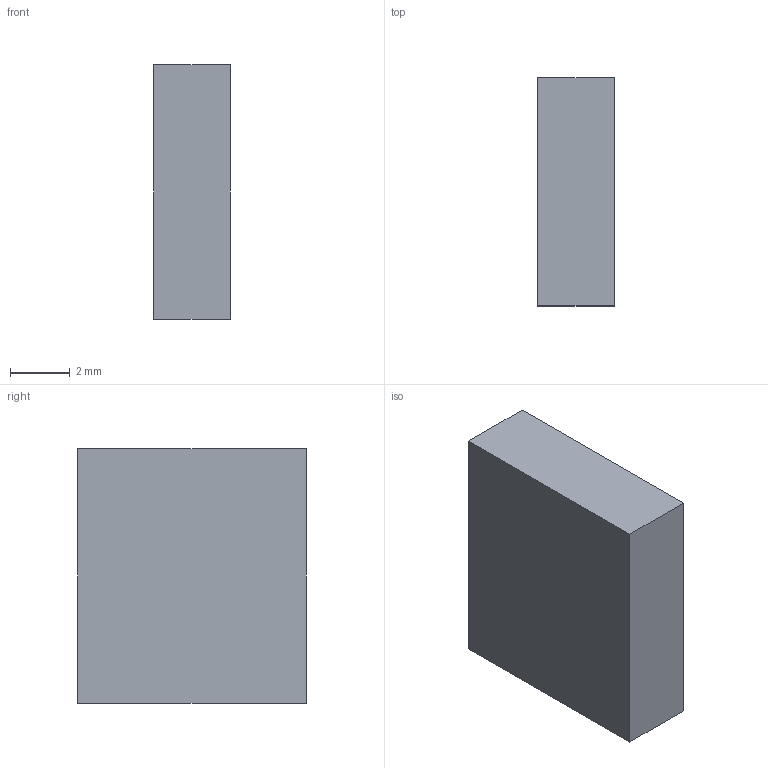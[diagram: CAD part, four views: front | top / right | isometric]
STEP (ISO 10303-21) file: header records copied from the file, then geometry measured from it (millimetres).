
FILE_DESCRIPTION(('Through-hole socket strip 1x3, 2.54 mm pitch -- body envelope 8.50 mm tall (2.54 mm socket strip, mating height (ICD-EEG-006 section 4))'),'2;1');
FILE_NAME('PinSocket_1x03_P2.54mm_Vertical','2026-09-08T00:00:00',('TI One Voice research programme'),(''),'EEG-CAR-01 step_write.py','','CC BY-SA 4.0');
FILE_SCHEMA(('AUTOMOTIVE_DESIGN { 1 0 10303 214 1 1 1 1 }'));
Length unit declared in the file: millimetre
Products named in the file (1): PinSocket_1x03_P2.54mm_Vertical
Bounding box: 2.54 x 7.62 x 8.5 mm (x, y, z)
Volume: 164.5 mm3; surface area: 211.4 mm2
Topology: 1 solids, 1 shells, 6 faces, 12 edges, 8 vertices
Faces by surface type: plane 6
Entity records: 67 total; most frequent: DIRECTION 14, CARTESIAN_POINT 9, AXIS2_PLACEMENT_3D 7, POLY_LOOP 6, FACE_OUTER_BOUND 6, PLANE 6, FACE_SURFACE 6, UNCERTAINTY_MEASURE_WITH_UNIT 1
